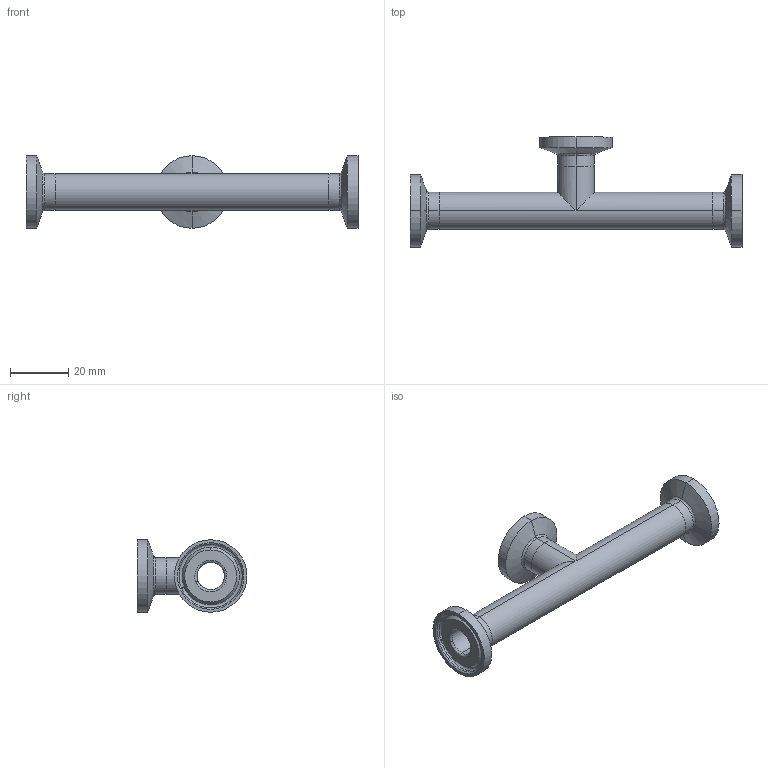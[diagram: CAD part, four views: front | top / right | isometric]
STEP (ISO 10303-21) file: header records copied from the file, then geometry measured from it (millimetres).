
FILE_DESCRIPTION (( 'STEP AP214' ), '1' );
FILE_NAME ('TEG7S6L.5-...STEP', '2016-05-24T12:19:53', ( 'eran' ), ( '' ), 'SwSTEP 2.0', 'SolidWorks 2016', '' );
FILE_SCHEMA (( 'AUTOMOTIVE_DESIGN' ));
Length unit declared in the file: millimetre
Products named in the file (1): TEG7S6L.5-..
Bounding box: 114.4 x 37.9 x 24.99 mm (x, y, z)
Volume: 11552.4 mm3; surface area: 12469 mm2
Topology: 4 solids, 4 shells, 82 faces, 190 edges, 118 vertices
Faces by surface type: cylinder 34, bspline 24, plane 12, cone 12
Entity records: 2717 total; most frequent: CARTESIAN_POINT 799, DIRECTION 418, ORIENTED_EDGE 380, EDGE_CURVE 190, AXIS2_PLACEMENT_3D 185, CIRCLE 126, VERTEX_POINT 118, EDGE_LOOP 94
